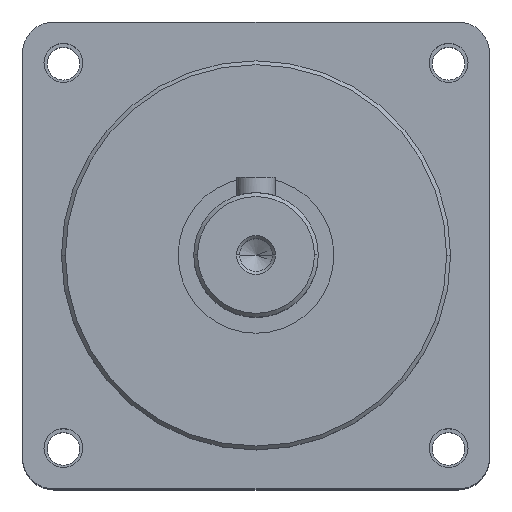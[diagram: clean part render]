
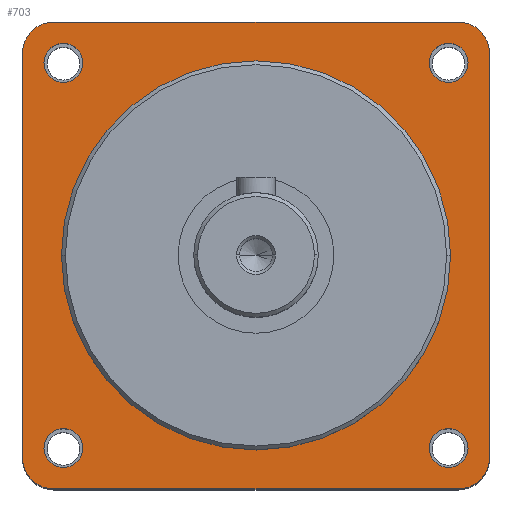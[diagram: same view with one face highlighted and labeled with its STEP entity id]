
A CAD part, top view. The second image highlights one B-rep face of the part: STEP entity #703.
In plain terms, the highlighted planar face has unit normal (0, 0, 1).
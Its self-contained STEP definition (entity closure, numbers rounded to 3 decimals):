
#55 = AXIS2_PLACEMENT_3D ( 'NONE', #2346, #2347, #2348 ) ;
#57 = AXIS2_PLACEMENT_3D ( 'NONE', #2356, #2357, #2358 ) ;
#59 = AXIS2_PLACEMENT_3D ( 'NONE', #2366, #2367, #2368 ) ;
#61 = AXIS2_PLACEMENT_3D ( 'NONE', #2376, #2377, #2378 ) ;
#62 = AXIS2_PLACEMENT_3D ( 'NONE', #2413, #2414, #2415 ) ;
#63 = AXIS2_PLACEMENT_3D ( 'NONE', #2416, #2417, #2418 ) ;
#64 = AXIS2_PLACEMENT_3D ( 'NONE', #2419, #2420, #2421 ) ;
#65 = AXIS2_PLACEMENT_3D ( 'NONE', #2422, #2423, #2424 ) ;
#66 = AXIS2_PLACEMENT_3D ( 'NONE', #2425, #2426, #2427 ) ;
#67 = AXIS2_PLACEMENT_3D ( 'NONE', #2428, #2429, #2430 ) ;
#68 = AXIS2_PLACEMENT_3D ( 'NONE', #2431, #2432, #2433 ) ;
#69 = AXIS2_PLACEMENT_3D ( 'NONE', #2434, #2435, #2436 ) ;
#126 = AXIS2_PLACEMENT_3D ( 'NONE', #4206, #4207, #4208 ) ;
#374 = EDGE_CURVE ( 'NONE', #645, #646, #2019, .T. ) ;
#378 = EDGE_CURVE ( 'NONE', #649, #650, #2013, .T. ) ;
#382 = EDGE_CURVE ( 'NONE', #653, #4105, #2007, .T. ) ;
#386 = EDGE_CURVE ( 'NONE', #4065, #4066, #2001, .T. ) ;
#390 = EDGE_CURVE ( 'NONE', #4070, #4069, #1995, .T. ) ;
#392 = EDGE_CURVE ( 'NONE', #4057, #4058, #1991, .T. ) ;
#396 = EDGE_CURVE ( 'NONE', #4063, #4064, #1983, .T. ) ;
#402 = EDGE_CURVE ( 'NONE', #4103, #4091, #1892, .T. ) ;
#404 = EDGE_CURVE ( 'NONE', #646, #645, #1925, .T. ) ;
#405 = EDGE_CURVE ( 'NONE', #650, #649, #1923, .T. ) ;
#406 = EDGE_CURVE ( 'NONE', #4105, #653, #1905, .T. ) ;
#407 = EDGE_CURVE ( 'NONE', #4066, #4065, #1932, .T. ) ;
#408 = EDGE_CURVE ( 'NONE', #4069, #4057, #1931, .T. ) ;
#409 = EDGE_CURVE ( 'NONE', #4058, #4063, #1930, .T. ) ;
#410 = EDGE_CURVE ( 'NONE', #4064, #4103, #1927, .T. ) ;
#411 = EDGE_CURVE ( 'NONE', #4091, #4070, #1934, .T. ) ;
#645 = VERTEX_POINT ( 'NONE', #4138 ) ;
#646 = VERTEX_POINT ( 'NONE', #4139 ) ;
#649 = VERTEX_POINT ( 'NONE', #4142 ) ;
#650 = VERTEX_POINT ( 'NONE', #4143 ) ;
#653 = VERTEX_POINT ( 'NONE', #4146 ) ;
#703 = ADVANCED_FACE ( 'NONE', ( #1844, #1843, #1842, #1841, #1840 ), #4205, .T. ) ;
#1760 = CARTESIAN_POINT ( 'NONE',  ( -26., -30., 78. ) ) ;
#1761 = CARTESIAN_POINT ( 'NONE',  ( 26., -30., 78. ) ) ;
#1766 = CARTESIAN_POINT ( 'NONE',  ( 30., -26., 78. ) ) ;
#1767 = CARTESIAN_POINT ( 'NONE',  ( 30., 26., 78. ) ) ;
#1768 = CARTESIAN_POINT ( 'NONE',  ( -27.249, 24.749, 78. ) ) ;
#1769 = CARTESIAN_POINT ( 'NONE',  ( -22.249, 24.749, 78. ) ) ;
#1772 = CARTESIAN_POINT ( 'NONE',  ( -30., -26., 78. ) ) ;
#1773 = CARTESIAN_POINT ( 'NONE',  ( -30., 26., 78. ) ) ;
#1789 = CARTESIAN_POINT ( 'NONE',  ( -26., 30., 78. ) ) ;
#1801 = CARTESIAN_POINT ( 'NONE',  ( 26., 30., 78. ) ) ;
#1803 = CARTESIAN_POINT ( 'NONE',  ( -24.749, -22.249, 78. ) ) ;
#1840 = FACE_OUTER_BOUND ( 'NONE', #3617, .T. ) ;
#1841 = FACE_BOUND ( 'NONE', #3622, .T. ) ;
#1842 = FACE_BOUND ( 'NONE', #3612, .T. ) ;
#1843 = FACE_BOUND ( 'NONE', #3628, .T. ) ;
#1844 = FACE_BOUND ( 'NONE', #3607, .T. ) ;
#1888 = VECTOR ( 'NONE', #2410, 1000. ) ;
#1892 = LINE ( 'NONE', #2409, #1888 ) ;
#1905 = CIRCLE ( 'NONE', #64, 2.5 ) ;
#1923 = CIRCLE ( 'NONE', #63, 2.5 ) ;
#1925 = CIRCLE ( 'NONE', #62, 2.5 ) ;
#1927 = CIRCLE ( 'NONE', #68, 4. ) ;
#1930 = CIRCLE ( 'NONE', #67, 4. ) ;
#1931 = CIRCLE ( 'NONE', #66, 4. ) ;
#1932 = CIRCLE ( 'NONE', #65, 2.5 ) ;
#1934 = CIRCLE ( 'NONE', #69, 4. ) ;
#1982 = VECTOR ( 'NONE', #2398, 1000. ) ;
#1983 = LINE ( 'NONE', #2397, #1982 ) ;
#1990 = VECTOR ( 'NONE', #2390, 1000. ) ;
#1991 = LINE ( 'NONE', #2389, #1990 ) ;
#1994 = VECTOR ( 'NONE', #2386, 1000. ) ;
#1995 = LINE ( 'NONE', #2385, #1994 ) ;
#2001 = CIRCLE ( 'NONE', #61, 2.5 ) ;
#2007 = CIRCLE ( 'NONE', #59, 2.5 ) ;
#2013 = CIRCLE ( 'NONE', #57, 2.5 ) ;
#2019 = CIRCLE ( 'NONE', #55, 2.5 ) ;
#2346 = CARTESIAN_POINT ( 'NONE',  ( 24.749, 24.749, 78. ) ) ;
#2347 = DIRECTION ( 'NONE',  ( 0., 0., 1. ) ) ;
#2348 = DIRECTION ( 'NONE',  ( 0., -1., 0. ) ) ;
#2356 = CARTESIAN_POINT ( 'NONE',  ( 24.749, -24.749, 78. ) ) ;
#2357 = DIRECTION ( 'NONE',  ( 0., 0., 1. ) ) ;
#2358 = DIRECTION ( 'NONE',  ( -1., 0., 0. ) ) ;
#2366 = CARTESIAN_POINT ( 'NONE',  ( -24.749, -24.749, 78. ) ) ;
#2367 = DIRECTION ( 'NONE',  ( 0., 0., 1. ) ) ;
#2368 = DIRECTION ( 'NONE',  ( 0., 1., 0. ) ) ;
#2376 = CARTESIAN_POINT ( 'NONE',  ( -24.749, 24.749, 78. ) ) ;
#2377 = DIRECTION ( 'NONE',  ( 0., 0., 1. ) ) ;
#2378 = DIRECTION ( 'NONE',  ( 1., 0., 0. ) ) ;
#2385 = CARTESIAN_POINT ( 'NONE',  ( -30., 30., 78. ) ) ;
#2386 = DIRECTION ( 'NONE',  ( 0., -1., 0. ) ) ;
#2389 = CARTESIAN_POINT ( 'NONE',  ( -30., -30., 78. ) ) ;
#2390 = DIRECTION ( 'NONE',  ( 1., 0., 0. ) ) ;
#2397 = CARTESIAN_POINT ( 'NONE',  ( 30., 30., 78. ) ) ;
#2398 = DIRECTION ( 'NONE',  ( 0., 1., 0. ) ) ;
#2409 = CARTESIAN_POINT ( 'NONE',  ( -30., 30., 78. ) ) ;
#2410 = DIRECTION ( 'NONE',  ( -1., 0., 0. ) ) ;
#2413 = CARTESIAN_POINT ( 'NONE',  ( 24.749, 24.749, 78. ) ) ;
#2414 = DIRECTION ( 'NONE',  ( 0., 0., 1. ) ) ;
#2415 = DIRECTION ( 'NONE',  ( 0., -1., 0. ) ) ;
#2416 = CARTESIAN_POINT ( 'NONE',  ( 24.749, -24.749, 78. ) ) ;
#2417 = DIRECTION ( 'NONE',  ( 0., 0., 1. ) ) ;
#2418 = DIRECTION ( 'NONE',  ( -1., 0., 0. ) ) ;
#2419 = CARTESIAN_POINT ( 'NONE',  ( -24.749, -24.749, 78. ) ) ;
#2420 = DIRECTION ( 'NONE',  ( 0., 0., 1. ) ) ;
#2421 = DIRECTION ( 'NONE',  ( 0., 1., 0. ) ) ;
#2422 = CARTESIAN_POINT ( 'NONE',  ( -24.749, 24.749, 78. ) ) ;
#2423 = DIRECTION ( 'NONE',  ( 0., 0., 1. ) ) ;
#2424 = DIRECTION ( 'NONE',  ( 1., 0., 0. ) ) ;
#2425 = CARTESIAN_POINT ( 'NONE',  ( -26., -26., 78. ) ) ;
#2426 = DIRECTION ( 'NONE',  ( 0., 0., 1. ) ) ;
#2427 = DIRECTION ( 'NONE',  ( 1., 0., 0. ) ) ;
#2428 = CARTESIAN_POINT ( 'NONE',  ( 26., -26., 78. ) ) ;
#2429 = DIRECTION ( 'NONE',  ( 0., 0., 1. ) ) ;
#2430 = DIRECTION ( 'NONE',  ( 1., 0., 0. ) ) ;
#2431 = CARTESIAN_POINT ( 'NONE',  ( 26., 26., 78. ) ) ;
#2432 = DIRECTION ( 'NONE',  ( 0., 0., 1. ) ) ;
#2433 = DIRECTION ( 'NONE',  ( 1., 0., 0. ) ) ;
#2434 = CARTESIAN_POINT ( 'NONE',  ( -26., 26., 78. ) ) ;
#2435 = DIRECTION ( 'NONE',  ( 0., 0., 1. ) ) ;
#2436 = DIRECTION ( 'NONE',  ( 1., 0., 0. ) ) ;
#2986 = ORIENTED_EDGE ( 'NONE', *, *, #411, .T. ) ;
#2987 = ORIENTED_EDGE ( 'NONE', *, *, #402, .T. ) ;
#2988 = ORIENTED_EDGE ( 'NONE', *, *, #410, .T. ) ;
#2989 = ORIENTED_EDGE ( 'NONE', *, *, #396, .T. ) ;
#2990 = ORIENTED_EDGE ( 'NONE', *, *, #409, .T. ) ;
#2991 = ORIENTED_EDGE ( 'NONE', *, *, #392, .T. ) ;
#2992 = ORIENTED_EDGE ( 'NONE', *, *, #408, .T. ) ;
#2993 = ORIENTED_EDGE ( 'NONE', *, *, #390, .T. ) ;
#2994 = ORIENTED_EDGE ( 'NONE', *, *, #386, .F. ) ;
#2995 = ORIENTED_EDGE ( 'NONE', *, *, #407, .F. ) ;
#2996 = ORIENTED_EDGE ( 'NONE', *, *, #382, .F. ) ;
#2997 = ORIENTED_EDGE ( 'NONE', *, *, #406, .F. ) ;
#2998 = ORIENTED_EDGE ( 'NONE', *, *, #378, .F. ) ;
#2999 = ORIENTED_EDGE ( 'NONE', *, *, #405, .F. ) ;
#3000 = ORIENTED_EDGE ( 'NONE', *, *, #374, .F. ) ;
#3001 = ORIENTED_EDGE ( 'NONE', *, *, #404, .F. ) ;
#3607 = EDGE_LOOP ( 'NONE', ( #3001, #3000 ) ) ;
#3612 = EDGE_LOOP ( 'NONE', ( #2997, #2996 ) ) ;
#3617 = EDGE_LOOP ( 'NONE', ( #2993, #2992, #2991, #2990, #2989, #2988, #2987, #2986 ) ) ;
#3622 = EDGE_LOOP ( 'NONE', ( #2995, #2994 ) ) ;
#3628 = EDGE_LOOP ( 'NONE', ( #2999, #2998 ) ) ;
#4057 = VERTEX_POINT ( 'NONE', #1760 ) ;
#4058 = VERTEX_POINT ( 'NONE', #1761 ) ;
#4063 = VERTEX_POINT ( 'NONE', #1766 ) ;
#4064 = VERTEX_POINT ( 'NONE', #1767 ) ;
#4065 = VERTEX_POINT ( 'NONE', #1768 ) ;
#4066 = VERTEX_POINT ( 'NONE', #1769 ) ;
#4069 = VERTEX_POINT ( 'NONE', #1772 ) ;
#4070 = VERTEX_POINT ( 'NONE', #1773 ) ;
#4091 = VERTEX_POINT ( 'NONE', #1789 ) ;
#4103 = VERTEX_POINT ( 'NONE', #1801 ) ;
#4105 = VERTEX_POINT ( 'NONE', #1803 ) ;
#4138 = CARTESIAN_POINT ( 'NONE',  ( 24.749, 27.249, 78. ) ) ;
#4139 = CARTESIAN_POINT ( 'NONE',  ( 24.749, 22.249, 78. ) ) ;
#4142 = CARTESIAN_POINT ( 'NONE',  ( 27.249, -24.749, 78. ) ) ;
#4143 = CARTESIAN_POINT ( 'NONE',  ( 22.249, -24.749, 78. ) ) ;
#4146 = CARTESIAN_POINT ( 'NONE',  ( -24.749, -27.249, 78. ) ) ;
#4205 = PLANE ( 'NONE',  #126 ) ;
#4206 = CARTESIAN_POINT ( 'NONE',  ( -30., -30., 78. ) ) ;
#4207 = DIRECTION ( 'NONE',  ( 0., 0., 1. ) ) ;
#4208 = DIRECTION ( 'NONE',  ( 1., 0., 0. ) ) ;
